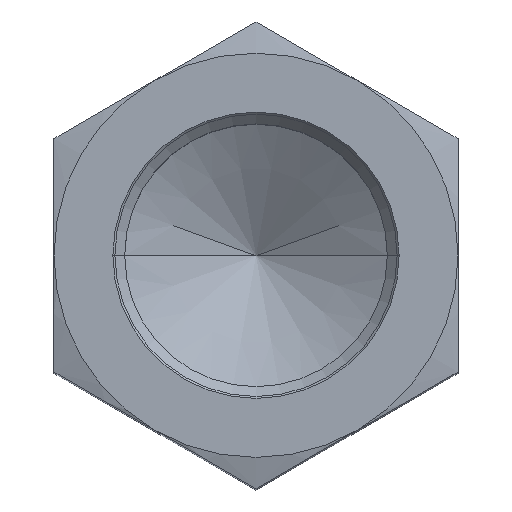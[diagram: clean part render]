
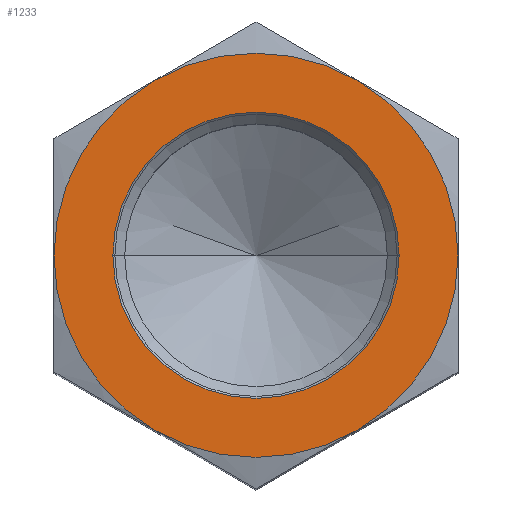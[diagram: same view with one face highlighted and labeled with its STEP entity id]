
A CAD part, top view. The second image highlights one B-rep face of the part: STEP entity #1233.
In plain terms, the highlighted planar face has unit normal (0, 0, 1).
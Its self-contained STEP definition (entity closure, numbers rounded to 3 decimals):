
#588=CARTESIAN_POINT('',(0.,0.,120.));
#589=DIRECTION('',(0.,0.,-1.));
#590=DIRECTION('',(1.,0.,0.));
#591=AXIS2_PLACEMENT_3D('',#588,#589,#590);
#596=CARTESIAN_POINT('',(0.,0.,120.));
#597=DIRECTION('',(0.,0.,-1.));
#598=DIRECTION('',(0.5,-0.866,0.));
#599=AXIS2_PLACEMENT_3D('',#596,#597,#598);
#604=CARTESIAN_POINT('',(0.,0.,120.));
#605=DIRECTION('',(0.,0.,-1.));
#606=DIRECTION('',(-0.5,-0.866,0.));
#607=AXIS2_PLACEMENT_3D('',#604,#605,#606);
#612=CARTESIAN_POINT('',(0.,0.,120.));
#613=DIRECTION('',(0.,0.,-1.));
#614=DIRECTION('',(-1.,0.,0.));
#615=AXIS2_PLACEMENT_3D('',#612,#613,#614);
#620=CARTESIAN_POINT('',(0.,0.,120.));
#621=DIRECTION('',(0.,0.,-1.));
#622=DIRECTION('',(-0.5,0.866,0.));
#623=AXIS2_PLACEMENT_3D('',#620,#621,#622);
#628=CARTESIAN_POINT('',(0.,0.,120.));
#629=DIRECTION('',(0.,0.,-1.));
#630=DIRECTION('',(0.5,0.866,0.));
#631=AXIS2_PLACEMENT_3D('',#628,#629,#630);
#636=CARTESIAN_POINT('',(0.,0.,120.));
#637=DIRECTION('',(0.,0.,1.));
#638=DIRECTION('',(-1.,0.,0.));
#639=AXIS2_PLACEMENT_3D('',#636,#637,#638);
#644=CARTESIAN_POINT('',(0.,0.,120.));
#645=DIRECTION('',(0.,0.,1.));
#646=DIRECTION('',(1.,0.,0.));
#647=AXIS2_PLACEMENT_3D('',#644,#645,#646);
#899=CARTESIAN_POINT('',(30.,0.,120.));
#900=CARTESIAN_POINT('',(15.,-25.981,120.));
#901=VERTEX_POINT('',#899);
#902=VERTEX_POINT('',#900);
#903=CARTESIAN_POINT('',(-15.,-25.981,120.));
#904=VERTEX_POINT('',#903);
#905=CARTESIAN_POINT('',(-30.,0.,120.));
#906=VERTEX_POINT('',#905);
#907=CARTESIAN_POINT('',(-15.,25.981,120.));
#908=VERTEX_POINT('',#907);
#909=CARTESIAN_POINT('',(15.,25.981,120.));
#910=VERTEX_POINT('',#909);
#939=CARTESIAN_POINT('',(-21.25,0.,120.));
#940=CARTESIAN_POINT('',(21.25,0.,120.));
#941=VERTEX_POINT('',#939);
#942=VERTEX_POINT('',#940);
#1211=CARTESIAN_POINT('',(0.,0.,120.));
#1212=DIRECTION('',(0.,0.,1.));
#1213=DIRECTION('',(1.,0.,0.));
#1214=AXIS2_PLACEMENT_3D('',#1211,#1212,#1213);
#1215=PLANE('',#1214);
#1217=ORIENTED_EDGE('',*,*,#1216,.T.);
#1219=ORIENTED_EDGE('',*,*,#1218,.T.);
#1221=ORIENTED_EDGE('',*,*,#1220,.T.);
#1222=ORIENTED_EDGE('',*,*,#1182,.T.);
#1223=ORIENTED_EDGE('',*,*,#1194,.T.);
#1224=ORIENTED_EDGE('',*,*,#1206,.T.);
#1225=EDGE_LOOP('',(#1217,#1219,#1221,#1222,#1223,#1224));
#1226=FACE_OUTER_BOUND('',#1225,.F.);
#1228=ORIENTED_EDGE('',*,*,#1227,.T.);
#1230=ORIENTED_EDGE('',*,*,#1229,.T.);
#1231=EDGE_LOOP('',(#1228,#1230));
#1232=FACE_BOUND('',#1231,.F.);
#592=CIRCLE('',#591,30.);
#600=CIRCLE('',#599,30.);
#608=CIRCLE('',#607,30.);
#616=CIRCLE('',#615,30.);
#624=CIRCLE('',#623,30.);
#632=CIRCLE('',#631,30.);
#640=CIRCLE('',#639,21.25);
#648=CIRCLE('',#647,21.25);
#1182=EDGE_CURVE('',#906,#908,#616,.T.);
#1194=EDGE_CURVE('',#908,#910,#624,.T.);
#1206=EDGE_CURVE('',#910,#901,#632,.T.);
#1216=EDGE_CURVE('',#901,#902,#592,.T.);
#1218=EDGE_CURVE('',#902,#904,#600,.T.);
#1220=EDGE_CURVE('',#904,#906,#608,.T.);
#1227=EDGE_CURVE('',#941,#942,#640,.T.);
#1229=EDGE_CURVE('',#942,#941,#648,.T.);
#1233=ADVANCED_FACE('',(#1226,#1232),#1215,.T.);
